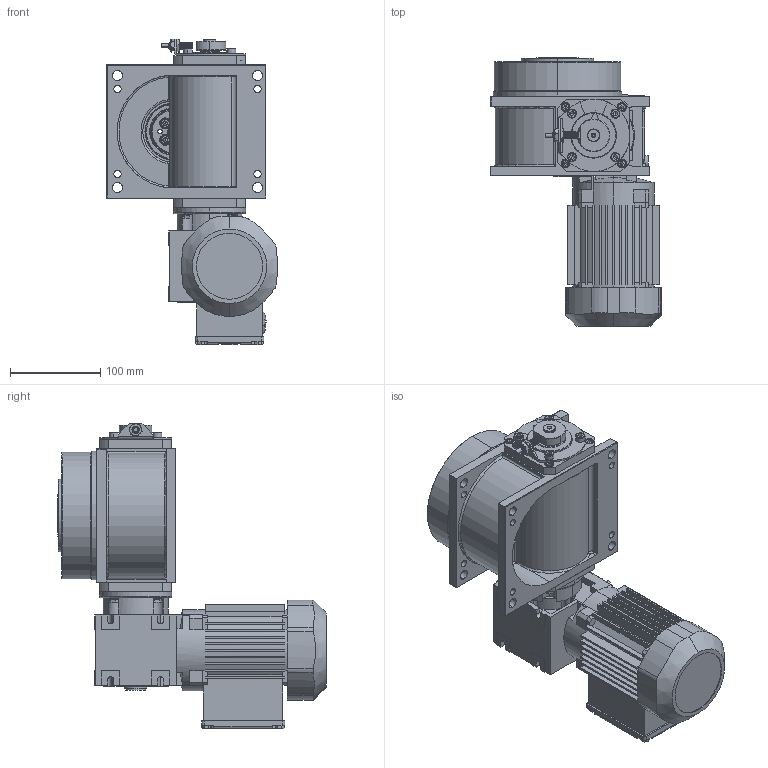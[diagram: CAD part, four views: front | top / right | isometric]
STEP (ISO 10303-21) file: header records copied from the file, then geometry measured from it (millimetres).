
FILE_DESCRIPTION (( 'STEP AP214' ), '1' );
FILE_NAME ('M140_SEW_WAF10DR2S56M4_D2.STEP', '2021-01-22T15:33:57', ( '' ), ( '' ), 'SwSTEP 2.0', 'SolidWorks 2020', '' );
FILE_SCHEMA (( 'AUTOMOTIVE_DESIGN' ));
Length unit declared in the file: millimetre
Products named in the file (1): M140_SEW_WAF10DR2S56M4_D2
Bounding box: 188.94 x 297.2 x 338.29 mm (x, y, z)
Surface area: 378641.5 mm2 (no closed solid volume)
Topology: 0 solids, 52 shells, 1301 faces, 4182 edges, 2809 vertices
Faces by surface type: plane 688, cylinder 413, cone 99, bspline 49, torus 48, sphere 4
Entity records: 66897 total; most frequent: CARTESIAN_POINT 16339, DIRECTION 7465, ORIENTED_EDGE 7170, EDGE_CURVE 4156, VERTEX_POINT 2809, AXIS2_PLACEMENT_3D 2499, LINE 2467, VECTOR 2467
